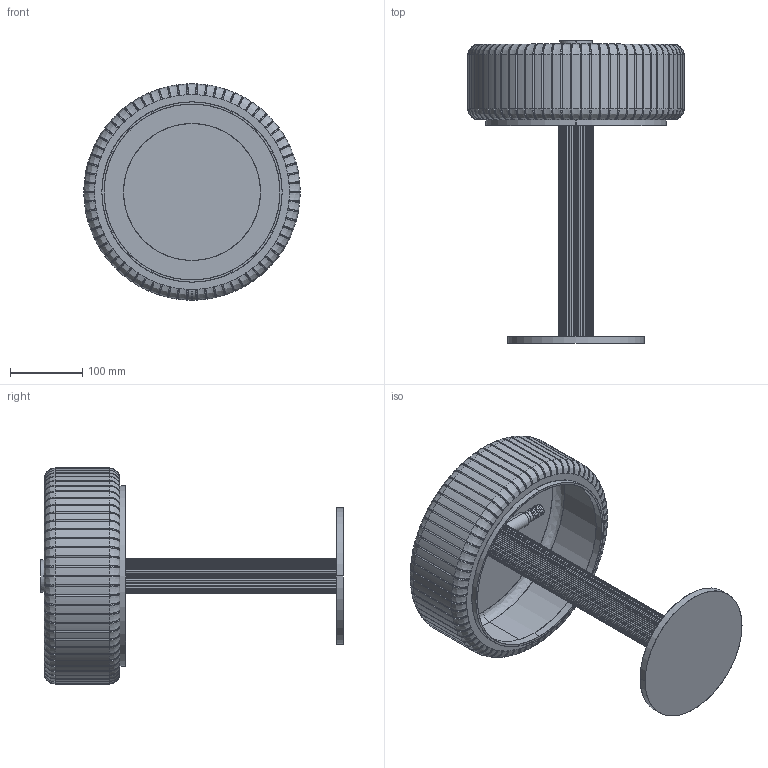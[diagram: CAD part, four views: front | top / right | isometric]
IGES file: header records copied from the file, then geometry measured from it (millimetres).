
Start section: SolidWorks IGES file using analytic representation for surfaces
Global section: file name: F:\燠隴矨\3D\2024-7\Renato Table Lamp.IGS,15; native system: HSolidWorks 2022; preprocessor: SolidWorks 2022; author: MyPC; date: 240716.145542; units: millimetre
Bounding box: 299.99 x 420 x 299.99 mm (x, y, z)
Surface area: 681685 mm2 (no closed solid volume)
Topology: 0 solids, 0 shells, 1449 faces, 18366 edges, 18366 vertices
Faces by surface type: bspline 1091, revolution 358
